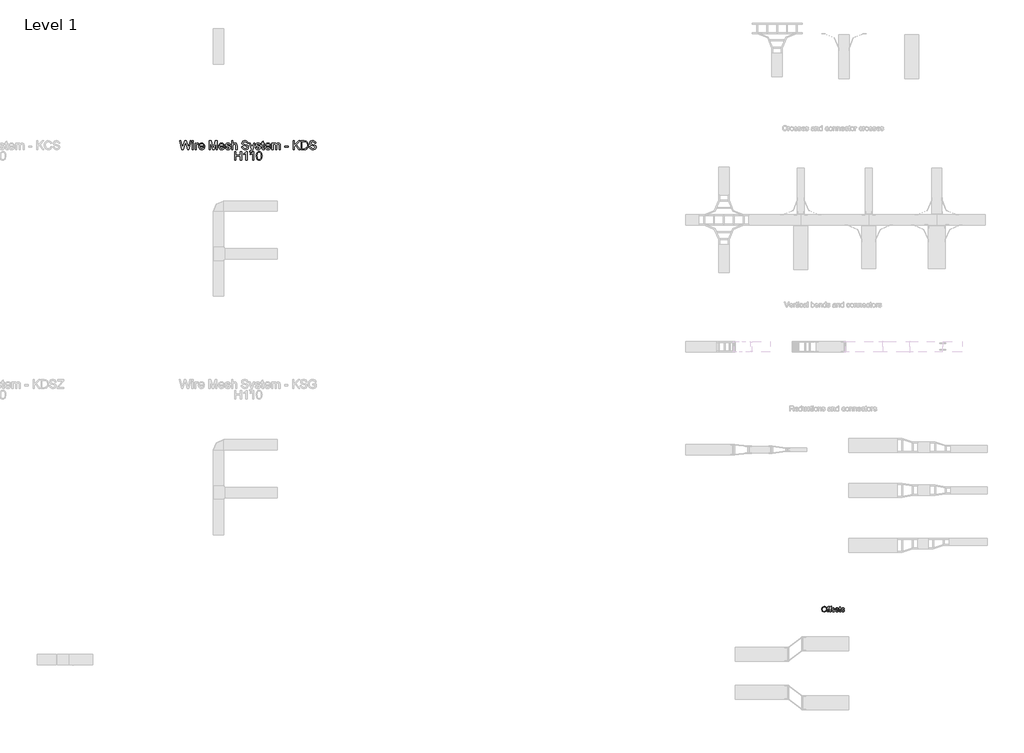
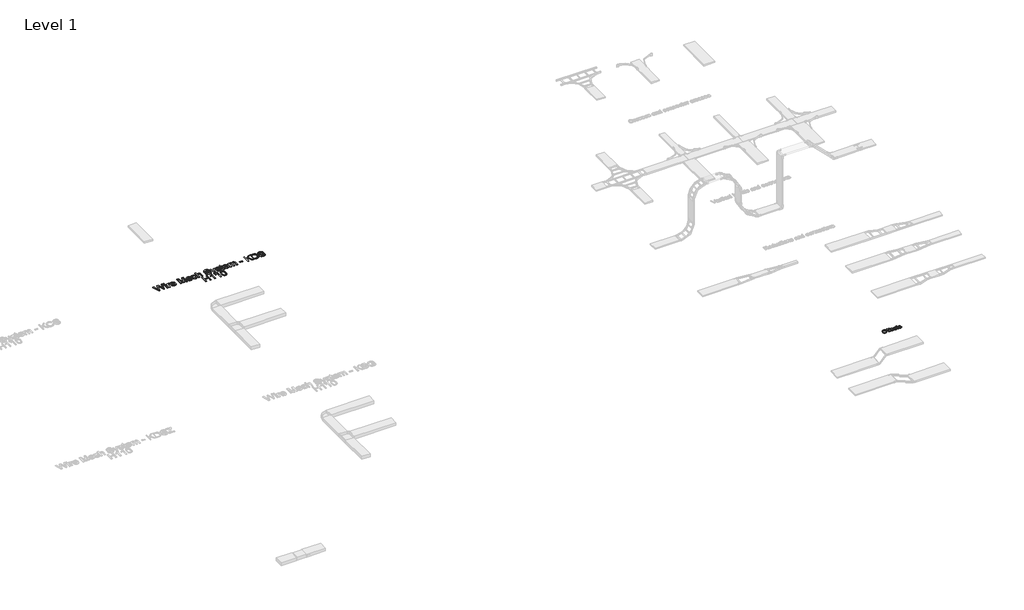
# One storey, part 37 of 106: 2 proxies.
"""IFC4 building model written with IfcOpenShell, lengths in millimetres."""

import ifcopenshell
import ifcopenshell.guid

model = None  # the IFC model being written
_history = None  # IfcOwnerHistory: only IFC2X3 demands one
_inside = {}  # id of a spatial element -> (the spatial element, [elements in it])
_under = {}  # id of a project, library or spatial element -> (it, [spatial elements below it])
_declared = {}  # id of a project -> (the project, [libraries it declares])
_typed = {}  # id of a type object -> (the type object, [elements of that type])
_made_of = {}  # id of a material, layer set ... -> (it, [elements and type objects made of it])


def new_model(schema):
    """Start an empty IFC model of exactly this schema.

    Asked for "IFC4X3", IfcOpenShell would pick the latest addendum, in which some entities
    have other attributes; the version numbers below select the first issue.
    IFC2X3 requires an IfcOwnerHistory on every rooted entity: one is made here for all.
    """
    global model, _history
    if schema == "IFC4X3":
        model = ifcopenshell.file(schema_version=(4, 3, 0, 0))
    else:
        model = ifcopenshell.file(schema=schema)
    _inside.clear()
    _under.clear()
    _declared.clear()
    _typed.clear()
    _made_of.clear()
    _history = None
    if model.schema == "IFC2X3":
        org = make("IfcOrganization", Name="unknown")
        user = make(
            "IfcPersonAndOrganization",
            ThePerson=make("IfcPerson", FamilyName="unknown"),
            TheOrganization=org,
        )
        app = make(
            "IfcApplication",
            ApplicationDeveloper=org,
            Version="unknown",
            ApplicationFullName="unknown",
            ApplicationIdentifier="unknown",
        )
        _history = make(
            "IfcOwnerHistory",
            OwningUser=user,
            OwningApplication=app,
            ChangeAction="ADDED",
            CreationDate=0,
        )
    return model


def make(cls, **values):
    """One entity of the class cls with the attributes given. An attribute that is None is left unset."""
    return model.create_entity(
        cls, **{name: value for name, value in values.items() if value is not None}
    )


def rooted(cls, **values):
    """An entity with a GlobalId (a new one), such as an element, a storey or a relation."""
    return make(cls, GlobalId=ifcopenshell.guid.new(), OwnerHistory=_history, **values)


def si_unit(unit_type, name, prefix=None):
    """IfcSIUnit, for example si_unit("LENGTHUNIT", "METRE", prefix="MILLI")."""
    return make("IfcSIUnit", UnitType=unit_type, Prefix=prefix, Name=name)


def assignment(units):
    """IfcUnitAssignment: the units of a project."""
    return None if units is None else make("IfcUnitAssignment", Units=units)


def point(xyz):
    """IfcCartesianPoint."""
    return None if xyz is None else make("IfcCartesianPoint", Coordinates=xyz)


def direction(xyz):
    """IfcDirection."""
    return None if xyz is None else make("IfcDirection", DirectionRatios=xyz)


def frame(location, z_axis=None, x_axis=None):
    """IfcAxis2Placement3D, a coordinate frame: its origin and axes. An axis left out is left unset."""
    return make(
        "IfcAxis2Placement3D",
        Location=point(location),
        Axis=direction(z_axis),
        RefDirection=direction(x_axis),
    )


def origin():
    """The frame at (0, 0, 0) with its axes left unset."""
    return frame((0.0, 0.0, 0.0))


def origin_with_axes():
    """The frame at (0, 0, 0) with the z axis (0, 0, 1) and the x axis (1, 0, 0) written out."""
    return frame((0.0, 0.0, 0.0), z_axis=(0.0, 0.0, 1.0), x_axis=(1.0, 0.0, 0.0))


def place(relative_to, where):
    """IfcLocalPlacement: puts the frame where relative to a parent placement (None: the world)."""
    return make(
        "IfcLocalPlacement", PlacementRelTo=relative_to, RelativePlacement=where
    )


def context(
    kind, dimensions, precision=None, world=None, true_north=None, identifier=None
):
    """IfcGeometricRepresentationContext, for example the 3D "Model" context."""
    return make(
        "IfcGeometricRepresentationContext",
        ContextIdentifier=identifier,
        ContextType=kind,
        CoordinateSpaceDimension=dimensions,
        Precision=precision,
        WorldCoordinateSystem=world,
        TrueNorth=true_north,
    )


def project(units=None, contexts=None):
    """IfcProject with its units and contexts."""
    return rooted(
        "IfcProject",
        Name="project",
        RepresentationContexts=contexts,
        UnitsInContext=assignment(units),
    )


def spatial(cls, under=None, at=None, **own):
    """A site, building, storey or space (cls), placed at a placement, below another one or the project."""
    s = rooted(cls, ObjectPlacement=at, **own)
    if under is not None:
        _under.setdefault(under.id(), (under, []))[1].append(s)
    return s


def polyline(points):
    """IfcPolyline through the points."""
    return make("IfcPolyline", Points=[point(p) for p in points])


def outline(outer, holes=None, kind="AREA"):
    """IfcArbitraryClosedProfileDef: a profile drawn as a closed curve; with holes, ...WithVoids."""
    if holes is None:
        return make("IfcArbitraryClosedProfileDef", ProfileType=kind, OuterCurve=outer)
    return make(
        "IfcArbitraryProfileDefWithVoids",
        ProfileType=kind,
        OuterCurve=outer,
        InnerCurves=holes,
    )


def extrude(swept, where, along, depth):
    """IfcExtrudedAreaSolid: the profile swept, set in the frame where, extruded along a direction by depth."""
    return make(
        "IfcExtrudedAreaSolid",
        SweptArea=swept,
        Position=where,
        ExtrudedDirection=direction(along),
        Depth=depth,
    )


def shape(context_of_items, identifier, shape_type, items):
    """IfcShapeRepresentation: the items that make up one representation, for example the "Body"."""
    return make(
        "IfcShapeRepresentation",
        ContextOfItems=context_of_items,
        RepresentationIdentifier=identifier,
        RepresentationType=shape_type,
        Items=items,
    )


def made_of(thing, what):
    """Note that an element or type object is made of a material, layer set ...; save() writes the relation."""
    if what is not None:
        _made_of.setdefault(what.id(), (what, []))[1].append(thing)
    return thing


def element(
    cls,
    number,
    at=None,
    inside=None,
    cuts=None,
    type_object=None,
    material=None,
    context=None,
    identifier="Body",
    shape_type=None,
    held_by="IfcProductDefinitionShape",
    body=None,
    shapes=None,
    **own,
):
    """One element of the class cls, such as IfcWall. Its Tag is "e" and its number.

    at: its placement. inside: the storey or other place that contains it. cuts: it is an
    opening in that element (IfcRelVoidsElement). A single representation is given by context,
    identifier, shape_type and body (its items); several are given by shapes. held_by: the class
    of the entity that holds the representations. save() writes the other relations.
    """
    e = rooted(cls, Tag="e%d" % number, ObjectPlacement=at, **own)
    if body is not None:
        shapes = [shape(context, identifier, shape_type, body)]
    if shapes is not None:
        e.Representation = make(held_by, Representations=shapes)
    if inside is not None:
        _inside.setdefault(inside.id(), (inside, []))[1].append(e)
    if cuts is not None:
        rooted(
            "IfcRelVoidsElement", RelatingBuildingElement=cuts, RelatedOpeningElement=e
        )
    if type_object is not None:
        _typed.setdefault(type_object.id(), (type_object, []))[1].append(e)
    return made_of(e, material)


def aggregate(whole, parts):
    """IfcRelAggregates: a whole, such as a stair, and the parts it consists of."""
    return rooted("IfcRelAggregates", RelatingObject=whole, RelatedObjects=parts)


def save(model, path):
    """Write the relations noted so far, then the file.

    IfcRelAggregates (storeys below a building ...), IfcRelContainedInSpatialStructure (elements
    in a storey), IfcRelDefinesByType, IfcRelAssociatesMaterial and IfcRelDeclares: one each for
    every whole, place, type object, material and project.
    """
    for whole, parts in _under.values():
        aggregate(whole, parts)
    for where, things in _inside.values():
        rooted(
            "IfcRelContainedInSpatialStructure",
            RelatedElements=things,
            RelatingStructure=where,
        )
    for kind, things in _typed.values():
        rooted("IfcRelDefinesByType", RelatedObjects=things, RelatingType=kind)
    for what, things in _made_of.values():
        rooted("IfcRelAssociatesMaterial", RelatedObjects=things, RelatingMaterial=what)
    for by, libraries in _declared.values():
        rooted("IfcRelDeclares", RelatingContext=by, RelatedDefinitions=libraries)
    model.write(path)


model = new_model("IFC4")

# Units and contexts
model_context = context("Model", 3, world=origin())
ifc_project = project(units=[si_unit("LENGTHUNIT", "METRE", prefix="MILLI")], contexts=[model_context])

# Site, building, storey
site = spatial("IfcSite", under=ifc_project)
building = spatial("IfcBuilding", under=site)
storey = spatial("IfcBuildingStorey", under=building, Name="Level 1", Elevation=0.0)

# Proxies
placement = place(None, origin())
element("IfcBuildingElementProxy", 1, Name="150mm Arial 2", ObjectType="150mm Arial 2", at=placement, inside=storey, context=model_context, shape_type="SweptSolid", body=[
    extrude(outline(polyline([(29692.661661, 17021.2033046), (29697.6832503, 17054.5242163), (29703.9602368, 17068.1427479), (29712.748018, 17079.7333301), (29735.7498397, 17095.5982411), (29764.5825911, 17100.8865448), (29784.3470513, 17098.4033413), (29802.0697664, 17090.9537309), (29816.7850462, 17079.0619454), (29827.5272005, 17063.2522167), (29834.0938941, 17044.2878998), (29836.282792, 17022.93235), (29833.978931, 17001.2916916), (29827.067348, 16982.0606603), (29815.9297206, 16966.2233404), (29800.9477263, 16954.7638163), (29783.3767625, 16947.8108466), (29764.4722265, 16945.49319), (29744.4042637, 16948.0545684), (29726.580381, 16955.7387036), (29711.9018894, 16967.8512183), (29701.2700997, 16983.6977352), (29694.8137707, 17001.9308866), (29692.661661, 17021.2033046)]), holes=[polyline([(29711.4972192, 17021.0193636), (29715.2634111, 16997.4473248), (29726.5619869, 16979.4854864), (29743.5443395, 16968.1179327), (29764.3618619, 16964.3287482), (29785.482887, 16968.1547209), (29802.4928307, 16979.6326392), (29813.708633, 16998.1463006), (29817.4472338, 17023.0795028), (29815.8469471, 17039.7537542), (29811.0460871, 17054.1655314), (29803.1688139, 17065.9515508), (29792.3392876, 17074.748529), (29779.2748783, 17080.2253722), (29764.6929557, 17082.0509866), (29744.4318548, 17078.533115), (29727.2057804, 17067.9795003), (29715.4243595, 17049.203723), (29711.4972192, 17021.0193636)])]), origin_with_axes(), (0.0, 0.0, 1.0), 15.0),
    extrude(outline(polyline([(29925.7516932, 16947.8476348), (29925.7516932, 17039.6709808), (29909.2705798, 17039.6709808), (29909.2705798, 17058.5065389), (29925.7516932, 17058.5065389), (29925.7516932, 17069.6533634), (29927.738256, 17085.3619246), (29937.3767642, 17096.5823254), (29956.3594752, 17100.8865448), (29973.5395644, 17098.8264056), (29970.7804494, 17081.1680698), (29959.9279305, 17082.0509866), (29948.0637362, 17078.9239897), (29944.5872513, 17067.2621304), (29944.5872513, 17058.5065389), (29965.7772543, 17058.5065389), (29965.7772543, 17039.6709808), (29944.5872513, 17039.6709808), (29944.5872513, 16947.8476348), (29925.7516932, 16947.8476348)])), origin_with_axes(), (0.0, 0.0, 1.0), 15.0),
    extrude(outline(polyline([(29864.5361292, 16947.8476348), (29864.5361292, 17039.6709808), (29848.0550158, 17039.6709808), (29848.0550158, 17058.5065389), (29864.5361292, 17058.5065389), (29864.5361292, 17069.6533634), (29866.522692, 17085.3619246), (29876.1612002, 17096.5823254), (29895.1439112, 17100.8865448), (29912.3240004, 17098.8264056), (29909.5648854, 17081.1680698), (29898.7123665, 17082.0509866), (29886.8481722, 17078.9239897), (29883.3716873, 17067.2621304), (29883.3716873, 17058.5065389), (29904.5616903, 17058.5065389), (29904.5616903, 17039.6709808), (29883.3716873, 17039.6709808), (29883.3716873, 16947.8476348), (29864.5361292, 16947.8476348)])), origin_with_axes(), (0.0, 0.0, 1.0), 15.0),
    extrude(outline(polyline([(29975.1950333, 16980.8098615), (29994.0305915, 16983.1643063), (29997.0012386, 16975.1076906), (30002.7493948, 16969.1847905), (30022.7253871, 16964.3287482), (30041.9288273, 16968.7801203), (30048.1828212, 16979.227969), (30046.6101257, 16984.028829), (30041.8920391, 16987.6892549), (30022.5046579, 16993.060332), (29994.1409561, 17002.275776), (29981.761727, 17013.0363243), (29977.5494781, 17028.2298507), (29980.9339925, 17042.2645488), (29990.1678305, 17052.988309), (30002.1423895, 17058.5617212), (30018.3475914, 17060.8609837), (30041.2666397, 17057.1637696), (30055.8347667, 17047.1573794), (30062.3094898, 17030.2532017), (30043.4739316, 17027.8987569), (30036.3922032, 17038.2914233), (30019.8191194, 17042.0254255), (30001.7929016, 17038.4569702), (29996.3850363, 17030.1428371), (29998.6291164, 17024.6613954), (30005.6556625, 17020.5043288), (30021.8792585, 17016.4944151), (30049.5255905, 17007.628459), (30062.3646721, 16997.5852805), (30067.0183793, 16981.2145317), (30061.5553317, 16963.188314), (30045.7915882, 16950.1101091), (30022.4678697, 16945.49319), (30003.4759617, 16947.7188761), (29989.6160076, 16954.3959343), (29980.3637754, 16965.4507882), (29975.1950333, 16980.8098615)])), origin_with_axes(), (0.0, 0.0, 1.0), 15.0),
    extrude(outline(polyline([(30165.6843304, 16980.8098615), (30184.1520066, 16978.4554168), (30177.497941, 16964.5402803), (30166.8799469, 16954.1384169), (30152.5371476, 16947.6544967), (30134.7086664, 16945.49319), (30112.6081556, 16949.2225937), (30095.6028104, 16960.4108049), (30084.7594886, 16978.3312566), (30081.145048, 17002.2573819), (30084.7962768, 17026.988249), (30095.7499632, 17045.4835163), (30112.5253821, 17057.0166168), (30133.6418087, 17060.8609837), (30154.1006461, 17057.0258139), (30170.4484023, 17045.5203045), (30181.1675639, 17027.0618254), (30184.7406178, 17002.3677465), (30184.6302532, 16997.2909749), (30099.9806061, 16997.2909749), (30103.2409603, 16983.1918975), (30110.8147309, 16972.8268223), (30121.7454246, 16966.4532667), (30135.0765484, 16964.3287482), (30153.5442246, 16968.2650855), (30165.6843304, 16980.8098615)]), holes=[polyline([(30099.9806061, 17016.1265331), (30165.9050596, 17016.1265331), (30163.3574768, 17026.0777411), (30158.3634787, 17033.1962577), (30147.3822012, 17039.8181336), (30133.5682323, 17042.0254255), (30120.8717049, 17040.2641905), (30110.3732725, 17034.9804853), (30103.0754134, 17026.7445272), (30099.9806061, 17016.1265331)])]), origin_with_axes(), (0.0, 0.0, 1.0), 15.0),
    extrude(outline(polyline([(30243.601737, 16963.556196), (30245.9561818, 16947.2958118), (30231.8663014, 16945.49319), (30216.0841638, 16948.620187), (30208.2114891, 16956.8239555), (30205.9306207, 16978.1978994), (30205.9306207, 17039.6709808), (30191.8039521, 17039.6709808), (30191.8039521, 17058.5065389), (30205.9306207, 17058.5065389), (30205.9306207, 17085.3987128), (30224.7661789, 17096.4719608), (30224.7661789, 17058.5065389), (30243.601737, 17058.5065389), (30243.601737, 17039.6709808), (30224.7661789, 17039.6709808), (30224.7661789, 16978.7497224), (30225.7594603, 16969.0376377), (30228.9784277, 16965.597941), (30235.3979685, 16964.3287482), (30243.601737, 16963.556196)])), origin_with_axes(), (0.0, 0.0, 1.0), 15.0),
    extrude(outline(polyline([(30255.3739609, 16980.8098615), (30274.209519, 16983.1643063), (30277.1801661, 16975.1076906), (30282.9283223, 16969.1847905), (30302.9043146, 16964.3287482), (30322.1077548, 16968.7801203), (30328.3617487, 16979.227969), (30326.7890532, 16984.028829), (30322.0709666, 16987.6892549), (30302.6835854, 16993.060332), (30274.3198836, 17002.275776), (30261.9406545, 17013.0363243), (30257.7284056, 17028.2298507), (30261.11292, 17042.2645488), (30270.3467581, 17052.988309), (30282.321317, 17058.5617212), (30298.5265189, 17060.8609837), (30321.4455672, 17057.1637696), (30336.0136942, 17047.1573794), (30342.4884173, 17030.2532017), (30323.6528592, 17027.8987569), (30316.5711308, 17038.2914233), (30299.9980469, 17042.0254255), (30281.9718291, 17038.4569702), (30276.5639638, 17030.1428371), (30278.808044, 17024.6613954), (30285.8345901, 17020.5043288), (30302.0581861, 17016.4944151), (30329.704518, 17007.628459), (30342.5435996, 16997.5852805), (30347.1973069, 16981.2145317), (30341.7342592, 16963.188314), (30325.9705157, 16950.1101091), (30302.6467972, 16945.49319), (30283.6548892, 16947.7188761), (30269.7949351, 16954.3959343), (30260.5427029, 16965.4507882), (30255.3739609, 16980.8098615)])), origin_with_axes(), (0.0, 0.0, 1.0), 15.0),
])
element("IfcBuildingElementProxy", 2, Name="250mm Arial 3", ObjectType="250mm Arial 3", at=placement, inside=storey, context=model_context, shape_type="SweptSolid", body=[
    extrude(outline(polyline([(11216.2159742, 30303.1379564), (11147.7286094, 30554.2787318), (11180.102225, 30554.2787318), (11219.8334805, 30389.2223433), (11232.0962137, 30338.2706869), (11245.2173381, 30383.3362313), (11295.0040348, 30554.2787318), (11341.6637345, 30554.2787318), (11377.8387974, 30430.3638131), (11393.3358265, 30384.3785637), (11404.7554967, 30338.2706869), (11416.6503479, 30387.7508153), (11456.7494854, 30554.2787318), (11489.1231009, 30554.2787318), (11420.5744225, 30303.1379564), (11387.0358473, 30303.1379564), (11326.8258274, 30496.8891405), (11318.4258552, 30523.9284672), (11308.9835506, 30491.3709106), (11254.1078197, 30303.1379564), (11216.2159742, 30303.1379564)])), origin_with_axes(), (0.0, 0.0, 1.0), 15.0),
    extrude(outline(polyline([(11516.5916233, 30522.8861348), (11516.5916233, 30554.2787318), (11547.9842202, 30554.2787318), (11547.9842202, 30522.8861348), (11516.5916233, 30522.8861348)])), origin_with_axes(), (0.0, 0.0, 1.0), 15.0),
    extrude(outline(polyline([(11516.5916233, 30303.1379564), (11516.5916233, 30487.5694633), (11547.9842202, 30487.5694633), (11547.9842202, 30303.1379564), (11516.5916233, 30303.1379564)])), origin_with_axes(), (0.0, 0.0, 1.0), 15.0),
    extrude(outline(polyline([(11595.0731156, 30303.1379564), (11595.0731156, 30487.5694633), (11622.5416379, 30487.5694633), (11622.5416379, 30460.284882), (11632.6890496, 30476.1038078), (11642.0393836, 30485.423485), (11661.6597567, 30491.4935379), (11677.2947415, 30489.0716481), (11693.1749809, 30481.8059787), (11682.6903441, 30453.6630061), (11660.6174244, 30460.100941), (11651.2440977, 30458.5527709), (11642.8671181, 30453.9082608), (11631.5547467, 30436.7404343), (11626.4657125, 30400.0748621), (11626.4657125, 30303.1379564), (11595.0731156, 30303.1379564)])), origin_with_axes(), (0.0, 0.0, 1.0), 15.0),
    extrude(outline(polyline([(11841.9219343, 30358.075001), (11872.7013946, 30354.1509264), (11861.6112853, 30330.9590323), (11843.9146285, 30313.6225933), (11820.009963, 30302.8160597), (11790.2958277, 30299.2138818), (11770.8172424, 30300.7678), (11753.4616429, 30305.4295547), (11738.229029, 30313.1991458), (11725.1194009, 30324.0765733), (11714.5772824, 30337.759101), (11707.0471978, 30353.9439928), (11702.5291471, 30372.6312485), (11701.0231302, 30393.8208682), (11702.5444755, 30415.7290074), (11707.1085115, 30435.0389801), (11714.7152382, 30451.7507861), (11725.3646555, 30465.8644256), (11738.4397948, 30477.0771622), (11753.3236872, 30485.0862598), (11770.0163327, 30489.8917184), (11788.5177314, 30491.4935379), (11806.4232378, 30489.8955505), (11822.6157938, 30485.1015883), (11837.0953992, 30477.1116512), (11849.8620541, 30465.9257393), (11860.2834612, 30451.8427566), (11867.7273234, 30435.1616074), (11872.1936408, 30415.8822916), (11873.6824132, 30394.0048092), (11873.4984722, 30385.5435233), (11732.4157271, 30385.5435233), (11737.8496507, 30362.0450609), (11750.4726017, 30344.7699355), (11768.6904247, 30334.1473429), (11790.9089643, 30330.6064787), (11807.6169383, 30332.2466193), (11821.6884246, 30337.1670409), (11833.1234233, 30345.6743121), (11841.9219343, 30358.075001)]), holes=[polyline([(11732.4157271, 30416.9361202), (11842.2898163, 30416.9361202), (11838.043845, 30433.5214669), (11829.7205148, 30445.3856612), (11811.4183856, 30456.4221211), (11788.395104, 30460.100941), (11767.2342251, 30457.1655493), (11749.7368377, 30448.359374), (11737.5737392, 30434.632777), (11732.4157271, 30416.9361202)])]), origin_with_axes(), (0.0, 0.0, 1.0), 15.0),
    extrude(outline(polyline([(12007.1009502, 30303.1379564), (12007.1009502, 30554.2787318), (12061.1182898, 30554.2787318), (12112.4991418, 30377.2661784), (12122.8611513, 30340.2940379), (12134.0815522, 30380.3318617), (12184.6040128, 30554.2787318), (12238.6213525, 30554.2787318), (12238.6213525, 30303.1379564), (12207.2287555, 30303.1379564), (12207.2287555, 30522.8861348), (12144.1369934, 30303.1379564), (12101.5853093, 30303.1379564), (12038.4935471, 30522.8861348), (12038.4935471, 30303.1379564), (12007.1009502, 30303.1379564)])), origin_with_axes(), (0.0, 0.0, 1.0), 15.0),
    extrude(outline(polyline([(12418.7609028, 30358.075001), (12449.540363, 30354.1509264), (12438.4502537, 30330.9590323), (12420.7535969, 30313.6225933), (12396.8489314, 30302.8160597), (12367.1347961, 30299.2138818), (12347.6562109, 30300.7678), (12330.3006113, 30305.4295547), (12315.0679975, 30313.1991458), (12301.9583693, 30324.0765733), (12291.4162509, 30337.759101), (12283.8861663, 30353.9439928), (12279.3681155, 30372.6312485), (12277.8620986, 30393.8208682), (12279.3834439, 30415.7290074), (12283.9474799, 30435.0389801), (12291.5542066, 30451.7507861), (12302.203624, 30465.8644256), (12315.2787632, 30477.0771622), (12330.1626556, 30485.0862598), (12346.8553011, 30489.8917184), (12365.3566998, 30491.4935379), (12383.2622063, 30489.8955505), (12399.4547622, 30485.1015883), (12413.9343676, 30477.1116512), (12426.7010225, 30465.9257393), (12437.1224296, 30451.8427566), (12444.5662919, 30435.1616074), (12449.0326092, 30415.8822916), (12450.5213817, 30394.0048092), (12450.3374407, 30385.5435233), (12309.2546955, 30385.5435233), (12314.6886192, 30362.0450609), (12327.3115701, 30344.7699355), (12345.5293931, 30334.1473429), (12367.7479328, 30330.6064787), (12384.4559067, 30332.2466193), (12398.527393, 30337.1670409), (12409.9623917, 30345.6743121), (12418.7609028, 30358.075001)]), holes=[polyline([(12309.2546955, 30416.9361202), (12419.1287848, 30416.9361202), (12414.8828134, 30433.5214669), (12406.5594833, 30445.3856612), (12388.257354, 30456.4221211), (12365.2340725, 30460.100941), (12344.0731935, 30457.1655493), (12326.5758061, 30448.359374), (12314.4127077, 30434.632777), (12309.2546955, 30416.9361202)])]), origin_with_axes(), (0.0, 0.0, 1.0), 15.0),
    extrude(outline(polyline([(12470.1417548, 30358.075001), (12501.5343517, 30361.9990756), (12506.4854302, 30348.5713828), (12516.0656905, 30338.6998826), (12530.3364462, 30332.6298297), (12549.359011, 30330.6064787), (12568.1516496, 30332.4612171), (12581.3647446, 30338.0254323), (12589.182237, 30346.0881793), (12591.7880678, 30355.4385134), (12589.1669086, 30363.4399468), (12581.303431, 30369.5406565), (12548.9911291, 30378.4924517), (12501.7182927, 30393.851525), (12489.7544636, 30401.5693827), (12481.0862441, 30411.7857723), (12475.8209331, 30423.8492361), (12474.0658294, 30437.1083163), (12479.7066866, 30460.4994798), (12495.0964168, 30478.3724134), (12515.054015, 30487.6614338), (12542.0626848, 30491.4935379), (12562.495464, 30489.9530321), (12580.2610986, 30485.3315145), (12594.5471828, 30478.0811735), (12604.5413103, 30468.6541974), (12611.1631862, 30456.3531432), (12615.3325155, 30440.4805679), (12583.9399186, 30436.5564933), (12579.9775229, 30446.4356577), (12572.1370379, 30453.8776039), (12560.3418214, 30458.5451067), (12544.5152314, 30460.100941), (12526.4890137, 30458.6140846), (12514.4715352, 30454.1535154), (12507.7117035, 30447.7155805), (12505.4584263, 30440.2966269), (12509.1985599, 30431.1608907), (12520.9094701, 30424.2324465), (12547.9487967, 30417.5492569), (12594.0260166, 30402.7726634), (12606.1967793, 30395.7062634), (12615.424486, 30386.0340326), (12621.2416201, 30373.7253142), (12623.1806647, 30358.7494513), (12620.9043949, 30343.2677507), (12614.0755854, 30328.7057551), (12602.9548192, 30316.2054314), (12587.8026795, 30306.9087468), (12569.5005503, 30301.137598), (12548.9298154, 30299.2138818), (12517.2766354, 30302.9233586), (12494.1767118, 30314.0517889), (12478.7563248, 30332.4765455), (12470.1417548, 30358.075001)])), origin_with_axes(), (0.0, 0.0, 1.0), 15.0),
    extrude(outline(polyline([(12658.4973363, 30303.1379564), (12658.4973363, 30554.2787318), (12689.8899332, 30554.2787318), (12689.8899332, 30461.940351), (12701.4207345, 30474.8698703), (12714.3694143, 30484.1052412), (12728.7359726, 30489.6464637), (12744.5204095, 30491.4935379), (12763.4816607, 30489.4778512), (12779.7757674, 30483.4307909), (12792.6056519, 30473.8275379), (12801.1742367, 30461.1432733), (12806.0026879, 30443.7148638), (12807.6121717, 30419.8791762), (12807.6121717, 30303.1379564), (12776.2195747, 30303.1379564), (12776.2195747, 30416.6295519), (12773.7210429, 30436.2805818), (12766.2254472, 30449.7389315), (12754.146655, 30457.5104386), (12737.8985336, 30460.100941), (12724.6317891, 30458.3535015), (12712.1774507, 30453.1111831), (12701.8614265, 30444.8798235), (12695.0096243, 30434.1652603), (12691.169856, 30419.9251614), (12689.8899332, 30401.1171944), (12689.8899332, 30303.1379564), (12658.4973363, 30303.1379564)])), origin_with_axes(), (0.0, 0.0, 1.0), 15.0),
    extrude(outline(polyline([(12941.0307086, 30389.4675979), (12972.4233055, 30389.4675979), (12976.0254834, 30372.0468526), (12982.5400604, 30358.0443442), (12992.7028005, 30346.9312422), (13007.2494677, 30338.1787164), (13025.0304308, 30332.4995381), (13044.8960586, 30330.6064787), (13062.3857817, 30332.0396856), (13077.6988698, 30336.3393065), (13090.1072229, 30343.1451234), (13098.8827413, 30352.0969186), (13104.1020672, 30362.3746218), (13105.8418424, 30373.1581628), (13100.6301808, 30392.7478791), (13092.6900611, 30400.4963936), (13079.2930251, 30407.0033064), (13033.5836872, 30418.990128), (12984.3794703, 30434.4718287), (12968.7521498, 30445.0331076), (12957.6773689, 30457.8323354), (12951.0784856, 30472.5936004), (12948.8788578, 30489.0409913), (12951.5996517, 30507.4274268), (12959.7620335, 30524.5722607), (12973.1514053, 30539.1035995), (12991.5531693, 30549.64955), (13013.6414174, 30556.0644923), (13038.0902416, 30558.2028064), (13064.5777453, 30555.9648576), (13087.754311, 30549.2510112), (13106.7922042, 30538.1992229), (13120.8636906, 30522.9474485), (13129.7695005, 30504.4460498), (13133.3103647, 30483.6453887), (13101.9177678, 30483.6453887), (13096.1542832, 30502.3767136), (13084.1368047, 30515.8963769), (13065.3594945, 30524.0817513), (13039.316515, 30526.8102095), (13012.6603987, 30524.1124082), (12994.3735979, 30516.0190043), (12983.7969905, 30504.1088247), (12980.2714547, 30489.9606963), (12982.7699866, 30477.8972325), (12990.2655823, 30468.1943449), (13007.9852317, 30459.5184612), (13041.5238069, 30450.6586365), (13097.0739882, 30434.9010243), (13114.9699144, 30423.5120109), (13127.4549096, 30409.455853), (13134.7895569, 30392.8858348), (13137.2344393, 30373.9552405), (13134.4216749, 30354.6031147), (13125.9833817, 30336.4006201), (13112.2644489, 30320.7349785), (13093.6097661, 30308.9934115), (13071.1766286, 30301.6587642), (13046.1223319, 30299.2138818), (13015.3658642, 30301.8503694), (12990.0509844, 30309.7598323), (12969.8864526, 30322.9729273), (12954.5810287, 30341.5203112), (12944.7555138, 30364.1143971), (12941.0307086, 30389.4675979)])), origin_with_axes(), (0.0, 0.0, 1.0), 15.0),
    extrude(outline(polyline([(13180.3992601, 30232.5046133), (13176.4751855, 30262.7322506), (13192.4167386, 30259.9731356), (13207.3159594, 30263.4373577), (13216.4516956, 30273.0942601), (13225.0356089, 30296.2095122), (13227.4881555, 30303.8124067), (13160.778887, 30487.5694633), (13193.8882666, 30487.5694633), (13229.2662518, 30385.1756413), (13241.5902986, 30344.2181125), (13253.9143455, 30380.3931754), (13290.2733493, 30487.5694633), (13323.1374742, 30487.5694633), (13258.9420661, 30298.7233725), (13242.264749, 30257.7658437), (13233.726821, 30244.6907044), (13224.0545902, 30235.6316103), (13212.8188609, 30230.3433066), (13199.5904375, 30228.5805387), (13180.3992601, 30232.5046133)])), origin_with_axes(), (0.0, 0.0, 1.0), 15.0),
    extrude(outline(polyline([(13337.3622447, 30358.075001), (13368.7548416, 30361.9990756), (13373.7059202, 30348.5713828), (13383.2861804, 30338.6998826), (13397.5569362, 30332.6298297), (13416.579501, 30330.6064787), (13435.3721396, 30332.4612171), (13448.5852346, 30338.0254323), (13456.402727, 30346.0881793), (13459.0085578, 30355.4385134), (13456.3873986, 30363.4399468), (13448.5239209, 30369.5406565), (13416.211619, 30378.4924517), (13368.9387826, 30393.851525), (13356.9749536, 30401.5693827), (13348.3067341, 30411.7857723), (13343.041423, 30423.8492361), (13341.2863193, 30437.1083163), (13346.9271766, 30460.4994798), (13362.3169067, 30478.3724134), (13382.274505, 30487.6614338), (13409.2831748, 30491.4935379), (13429.7159539, 30489.9530321), (13447.4815886, 30485.3315145), (13461.7676728, 30478.0811735), (13471.7618003, 30468.6541974), (13478.3836762, 30456.3531432), (13482.5530055, 30440.4805679), (13451.1604086, 30436.5564933), (13447.1980129, 30446.4356577), (13439.3575279, 30453.8776039), (13427.5623114, 30458.5451067), (13411.7357214, 30460.100941), (13393.7095036, 30458.6140846), (13381.6920251, 30454.1535154), (13374.9321935, 30447.7155805), (13372.6789163, 30440.2966269), (13376.4190499, 30431.1608907), (13388.1299601, 30424.2324465), (13415.1692867, 30417.5492569), (13461.2465066, 30402.7726634), (13473.4172693, 30395.7062634), (13482.644976, 30386.0340326), (13488.46211, 30373.7253142), (13490.4011547, 30358.7494513), (13488.1248849, 30343.2677507), (13481.2960753, 30328.7057551), (13470.1753092, 30316.2054314), (13455.0231695, 30306.9087468), (13436.7210402, 30301.137598), (13416.1503054, 30299.2138818), (13384.4971253, 30302.9233586), (13361.3972017, 30314.0517889), (13345.9768148, 30332.4765455), (13337.3622447, 30358.075001)])), origin_with_axes(), (0.0, 0.0, 1.0), 15.0),
    extrude(outline(polyline([(13592.4270947, 30329.3188917), (13596.3511693, 30302.2182514), (13572.8680353, 30299.2138818), (13557.8002019, 30300.5167972), (13546.5644726, 30304.4255434), (13533.4433481, 30318.0984909), (13529.6419009, 30353.7217307), (13529.6419009, 30456.1768664), (13506.0974532, 30456.1768664), (13506.0974532, 30487.5694633), (13529.6419009, 30487.5694633), (13529.6419009, 30532.3897531), (13561.0344978, 30550.8451665), (13561.0344978, 30487.5694633), (13592.4270947, 30487.5694633), (13592.4270947, 30456.1768664), (13561.0344978, 30456.1768664), (13561.0344978, 30354.6414357), (13562.6899668, 30338.4546279), (13568.0549125, 30332.7218002), (13578.7541472, 30330.6064787), (13592.4270947, 30329.3188917)])), origin_with_axes(), (0.0, 0.0, 1.0), 15.0),
    extrude(outline(polyline([(13752.9462719, 30358.075001), (13783.7257322, 30354.1509264), (13772.6356229, 30330.9590323), (13754.9389661, 30313.6225933), (13731.0343006, 30302.8160597), (13701.3201653, 30299.2138818), (13681.8415801, 30300.7678), (13664.4859805, 30305.4295547), (13649.2533666, 30313.1991458), (13636.1437385, 30324.0765733), (13625.60162, 30337.759101), (13618.0715355, 30353.9439928), (13613.5534847, 30372.6312485), (13612.0474678, 30393.8208682), (13613.5688131, 30415.7290074), (13618.1328491, 30435.0389801), (13625.7395758, 30451.7507861), (13636.3889931, 30465.8644256), (13649.4641324, 30477.0771622), (13664.3480248, 30485.0862598), (13681.0406703, 30489.8917184), (13699.542069, 30491.4935379), (13717.4475755, 30489.8955505), (13733.6401314, 30485.1015883), (13748.1197368, 30477.1116512), (13760.8863917, 30465.9257393), (13771.3077988, 30451.8427566), (13778.7516611, 30435.1616074), (13783.2179784, 30415.8822916), (13784.7067509, 30394.0048092), (13784.5228099, 30385.5435233), (13643.4400647, 30385.5435233), (13648.8739883, 30362.0450609), (13661.4969393, 30344.7699355), (13679.7147623, 30334.1473429), (13701.9333019, 30330.6064787), (13718.6412759, 30332.2466193), (13732.7127622, 30337.1670409), (13744.1477609, 30345.6743121), (13752.9462719, 30358.075001)]), holes=[polyline([(13643.4400647, 30416.9361202), (13753.3141539, 30416.9361202), (13749.0681826, 30433.5214669), (13740.7448524, 30445.3856612), (13722.4427232, 30456.4221211), (13699.4194416, 30460.100941), (13678.2585627, 30457.1655493), (13660.7611753, 30448.359374), (13648.5980768, 30434.632777), (13643.4400647, 30416.9361202)])]), origin_with_axes(), (0.0, 0.0, 1.0), 15.0),
    extrude(outline(polyline([(13816.0993478, 30303.1379564), (13816.0993478, 30487.5694633), (13847.4919447, 30487.5694633), (13847.4919447, 30457.2191987), (13856.9342492, 30471.1603935), (13869.0743551, 30482.0818902), (13883.498395, 30489.140626), (13899.7925017, 30491.4935379), (13917.251568, 30489.0946407), (13931.2464123, 30481.8979492), (13941.7003923, 30470.3786442), (13948.536866, 30455.0119067), (13959.9795289, 30470.9726204), (13973.0316756, 30482.3731301), (13987.6933059, 30489.213436), (14003.96442, 30491.4935379), (14027.5625171, 30487.6997549), (14045.0139193, 30476.3184056), (14055.7974603, 30457.0429219), (14059.3919739, 30429.5667354), (14059.3919739, 30303.1379564), (14027.999377, 30303.1379564), (14027.999377, 30416.0777289), (14025.0869779, 30442.2893211), (14014.5410273, 30455.1958477), (13996.6067801, 30460.100941), (13979.599902, 30456.9586156), (13965.7353493, 30447.5316395), (13956.5153068, 30431.1762191), (13953.4419593, 30407.248561), (13953.4419593, 30303.1379564), (13922.0493624, 30303.1379564), (13922.0493624, 30419.5726079), (13920.232945, 30437.3229141), (13914.783693, 30449.9841861), (13905.1957685, 30457.5717523), (13890.9633338, 30460.100941), (13878.8692132, 30458.4148152), (13867.7254544, 30453.3564378), (13858.5284046, 30445.048436), (13852.2744106, 30433.6134374), (13847.4919447, 30396.1507875), (13847.4919447, 30303.1379564), (13816.0993478, 30303.1379564)])), origin_with_axes(), (0.0, 0.0, 1.0), 15.0),
    extrude(outline(polyline([(14188.8864362, 30377.6953741), (14188.8864362, 30409.087971), (14286.9883016, 30409.087971), (14286.9883016, 30377.6953741), (14188.8864362, 30377.6953741)])), origin_with_axes(), (0.0, 0.0, 1.0), 15.0),
    extrude(outline(polyline([(14424.3309131, 30303.1379564), (14424.3309131, 30554.2787318), (14455.7235101, 30554.2787318), (14455.7235101, 30431.3448317), (14584.4822084, 30554.2787318), (14628.3827931, 30554.2787318), (14520.2868002, 30451.0265185), (14632.3068677, 30303.1379564), (14593.9245129, 30303.1379564), (14498.0299395, 30429.8119901), (14455.7235101, 30389.4675979), (14455.7235101, 30303.1379564), (14424.3309131, 30303.1379564)])), origin_with_axes(), (0.0, 0.0, 1.0), 15.0),
    extrude(outline(polyline([(14655.8513154, 30303.1379564), (14655.8513154, 30554.2787318), (14742.4875253, 30554.2787318), (14787.307815, 30550.6612255), (14807.3267269, 30543.686796), (14824.2186419, 30532.6963214), (14841.5857377, 30513.5664576), (14853.9557698, 30489.7767553), (14861.359395, 30461.7870668), (14863.82727, 30430.0572447), (14862.1564726, 30403.1022244), (14857.1440805, 30379.3814999), (14849.5105291, 30359.1863112), (14839.976254, 30342.8078982), (14817.044943, 30320.0298713), (14787.0319035, 30307.429913), (14746.6568546, 30303.1379564), (14655.8513154, 30303.1379564)]), holes=[polyline([(14687.2439124, 30334.5305533), (14742.7940936, 30334.5305533), (14783.1997994, 30339.0677646), (14806.4989925, 30351.8823208), (14817.4051608, 30365.470962), (14825.5981994, 30383.0603198), (14830.7255547, 30404.7270365), (14832.4346731, 30430.5477541), (14829.0854141, 30464.7607796), (14819.0376371, 30490.0220099), (14804.1920658, 30507.3737774), (14786.4494237, 30517.8584142), (14768.3925491, 30521.6292047), (14741.9357023, 30522.8861348), (14687.2439124, 30522.8861348), (14687.2439124, 30334.5305533)])]), origin_with_axes(), (0.0, 0.0, 1.0), 15.0),
    extrude(outline(polyline([(14895.219867, 30389.4675979), (14926.6124639, 30389.4675979), (14930.2146418, 30372.0468526), (14936.7292187, 30358.0443442), (14946.8919589, 30346.9312422), (14961.4386261, 30338.1787164), (14979.2195892, 30332.4995381), (14999.0852169, 30330.6064787), (15016.5749401, 30332.0396856), (15031.8880282, 30336.3393065), (15044.2963813, 30343.1451234), (15053.0718997, 30352.0969186), (15058.2912255, 30362.3746218), (15060.0310008, 30373.1581628), (15054.8193392, 30392.7478791), (15046.8792195, 30400.4963936), (15033.4821835, 30407.0033064), (14987.7728456, 30418.990128), (14938.5686287, 30434.4718287), (14922.9413081, 30445.0331076), (14911.8665272, 30457.8323354), (14905.267644, 30472.5936004), (14903.0680162, 30489.0409913), (14905.7888101, 30507.4274268), (14913.9511919, 30524.5722607), (14927.3405637, 30539.1035995), (14945.7423276, 30549.64955), (14967.8305758, 30556.0644923), (14992.2794, 30558.2028064), (15018.7669037, 30555.9648576), (15041.9434694, 30549.2510112), (15060.9813626, 30538.1992229), (15075.0528489, 30522.9474485), (15083.9586589, 30504.4460498), (15087.4995231, 30483.6453887), (15056.1069262, 30483.6453887), (15050.3434416, 30502.3767136), (15038.3259631, 30515.8963769), (15019.5486529, 30524.0817513), (14993.5056733, 30526.8102095), (14966.8495571, 30524.1124082), (14948.5627563, 30516.0190043), (14937.9861489, 30504.1088247), (14934.4606131, 30489.9606963), (14936.959145, 30477.8972325), (14944.4547406, 30468.1943449), (14962.1743901, 30459.5184612), (14995.7129653, 30450.6586365), (15051.2631466, 30434.9010243), (15069.1590728, 30423.5120109), (15081.644068, 30409.455853), (15088.9787153, 30392.8858348), (15091.4235977, 30373.9552405), (15088.6108333, 30354.6031147), (15080.17254, 30336.4006201), (15066.4536073, 30320.7349785), (15047.7989245, 30308.9934115), (15025.365787, 30301.6587642), (15000.3114902, 30299.2138818), (14969.5550226, 30301.8503694), (14944.2401428, 30309.7598323), (14924.075611, 30322.9729273), (14908.7701871, 30341.5203112), (14898.9446722, 30364.1143971), (14895.219867, 30389.4675979)])), origin_with_axes(), (0.0, 0.0, 1.0), 15.0),
    extrude(outline(polyline([(12740.9029032, 29998.2009118), (12740.9029032, 30249.3416872), (12772.2955001, 30249.3416872), (12772.2955001, 30147.3157472), (12905.714037, 30147.3157472), (12905.714037, 30249.3416872), (12937.106634, 30249.3416872), (12937.106634, 29998.2009118), (12905.714037, 29998.2009118), (12905.714037, 30115.9231502), (12772.2955001, 30115.9231502), (12772.2955001, 29998.2009118), (12740.9029032, 29998.2009118)])), origin_with_axes(), (0.0, 0.0, 1.0), 15.0),
    extrude(outline(polyline([(13097.9936932, 29998.2009118), (13066.6010963, 29998.2009118), (13066.6010963, 30193.9141332), (13036.8639683, 30172.7302617), (13003.8159024, 30156.880679), (13003.8159024, 30186.5564933), (13028.4716603, 30199.9688577), (13049.8318087, 30215.9257393), (13066.6700741, 30232.8942963), (13077.7601835, 30249.3416872), (13097.9936932, 30249.3416872), (13097.9936932, 29998.2009118)])), origin_with_axes(), (0.0, 0.0, 1.0), 15.0),
    extrude(outline(polyline([(13290.2733493, 29998.2009118), (13258.8807524, 29998.2009118), (13258.8807524, 30193.9141332), (13229.1436245, 30172.7302617), (13196.0955586, 30156.880679), (13196.0955586, 30186.5564933), (13220.7513165, 30199.9688577), (13242.1114648, 30215.9257393), (13258.9497303, 30232.8942963), (13270.0398396, 30249.3416872), (13290.2733493, 30249.3416872), (13290.2733493, 29998.2009118)])), origin_with_axes(), (0.0, 0.0, 1.0), 15.0),
    extrude(outline(polyline([(13364.830767, 30121.7479485), (13367.1376937, 30161.9467207), (13374.0584737, 30194.0061037), (13385.5241293, 30218.4166069), (13401.4656824, 30235.6687397), (13421.9980962, 30245.9234503), (13447.2363339, 30249.3416872), (13466.5807955, 30247.3183362), (13483.9019061, 30241.2482833), (13498.3872597, 30231.3691189), (13509.2244501, 30217.9184334), (13523.9397299, 30180.7623519), (13528.2163581, 30155.0489333), (13529.6419009, 30121.7479485), (13527.3579668, 30081.7791026), (13520.5061647, 30049.7963616), (13509.109487, 30025.3628658), (13493.1909265, 30008.0417552), (13472.6125274, 29997.7180667), (13447.2363339, 29994.2768372), (13429.9458802, 29995.7713578), (13414.6174637, 30000.2549196), (13401.2510845, 30007.7275226), (13389.8467427, 30018.1891669), (13378.9022533, 30037.1006007), (13371.0847609, 30060.6642089), (13366.3942655, 30088.8799915), (13364.830767, 30121.7479485)]), holes=[polyline([(13396.2233639, 30121.8092622), (13399.9021839, 30072.4287685), (13404.5007088, 30055.5387696), (13410.9386438, 30043.848936), (13427.3707062, 30030.2143096), (13447.2363339, 30025.6694341), (13467.1019617, 30030.229638), (13483.5340241, 30043.9102497), (13489.9719591, 30055.6192438), (13494.570484, 30072.5054106), (13498.2493039, 30121.8092622), (13494.6931113, 30170.0784456), (13490.2478705, 30186.912879), (13484.0245335, 30198.8805402), (13467.6231278, 30213.1819527), (13446.8684519, 30217.9490902), (13427.217422, 30213.7491041), (13411.4291531, 30201.1491458), (13404.7766203, 30188.1199918), (13400.0248112, 30170.5536265), (13396.2233639, 30121.8092622)])]), origin_with_axes(), (0.0, 0.0, 1.0), 15.0),
])

save(model, "model.ifc")
